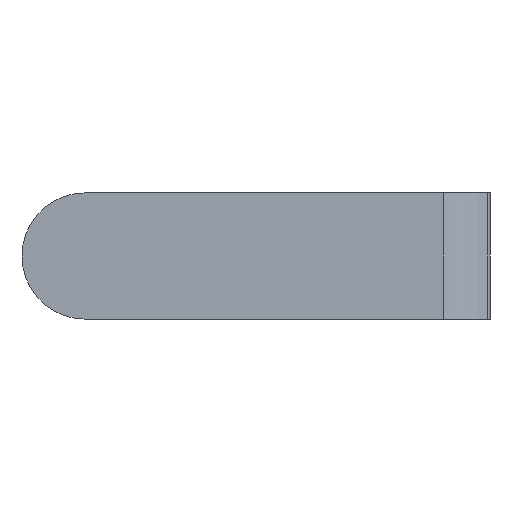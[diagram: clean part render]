
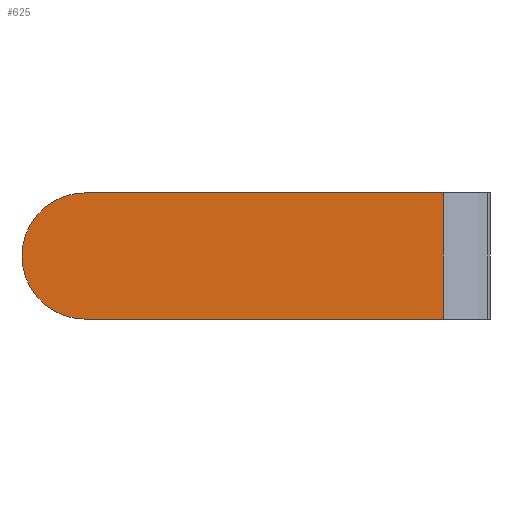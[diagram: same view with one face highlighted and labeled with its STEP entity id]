
A CAD part, left-side view. The second image highlights one B-rep face of the part: STEP entity #625.
In plain terms, the highlighted planar face has unit normal (-1, 0, 0).
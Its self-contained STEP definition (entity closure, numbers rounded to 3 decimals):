
#38=PLANE('',#696);
#72=FACE_OUTER_BOUND('',#113,.T.);
#113=EDGE_LOOP('',(#565,#566,#567,#568));
#142=LINE('',#980,#195);
#161=LINE('',#1052,#214);
#167=LINE('',#1066,#220);
#195=VECTOR('',#787,22.677);
#214=VECTOR('',#856,22.677);
#220=VECTOR('',#876,8.);
#249=CIRCLE('',#680,4.);
#285=VERTEX_POINT('',#977);
#286=VERTEX_POINT('',#979);
#307=VERTEX_POINT('',#1033);
#314=VERTEX_POINT('',#1051);
#358=EDGE_CURVE('',#286,#285,#142,.T.);
#382=EDGE_CURVE('',#307,#286,#249,.T.);
#392=EDGE_CURVE('',#307,#314,#161,.T.);
#400=EDGE_CURVE('',#314,#285,#167,.T.);
#565=ORIENTED_EDGE('',*,*,#358,.T.);
#566=ORIENTED_EDGE('',*,*,#400,.F.);
#567=ORIENTED_EDGE('',*,*,#392,.F.);
#568=ORIENTED_EDGE('',*,*,#382,.T.);
#625=ADVANCED_FACE('',(#72),#38,.F.);
#680=AXIS2_PLACEMENT_3D('',#1034,#840,#841);
#696=AXIS2_PLACEMENT_3D('',#1072,#886,#887);
#787=DIRECTION('',(0.,-1.,0.));
#840=DIRECTION('center_axis',(-1.,0.,0.));
#841=DIRECTION('ref_axis',(0.,0.,1.));
#856=DIRECTION('',(0.,-1.,0.));
#876=DIRECTION('',(0.,0.,-1.));
#886=DIRECTION('center_axis',(1.,0.,0.));
#887=DIRECTION('ref_axis',(0.,0.,-1.));
#977=CARTESIAN_POINT('',(-36.4,-23.927,-8.));
#979=CARTESIAN_POINT('',(-36.4,-1.25,-8.));
#980=CARTESIAN_POINT('',(-36.4,-1.25,-8.));
#1033=CARTESIAN_POINT('',(-36.4,-1.25,0.));
#1034=CARTESIAN_POINT('Origin',(-36.4,-1.25,-4.));
#1051=CARTESIAN_POINT('',(-36.4,-23.927,0.));
#1052=CARTESIAN_POINT('',(-36.4,-16.423,0.));
#1066=CARTESIAN_POINT('',(-36.4,-23.927,0.));
#1072=CARTESIAN_POINT('Origin',(-36.4,-8.108,-4.));
